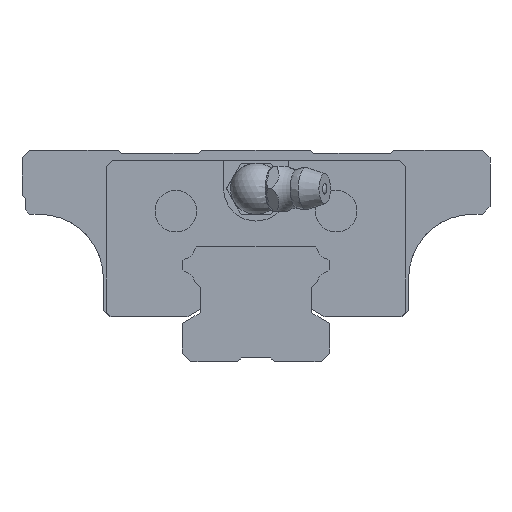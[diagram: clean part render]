
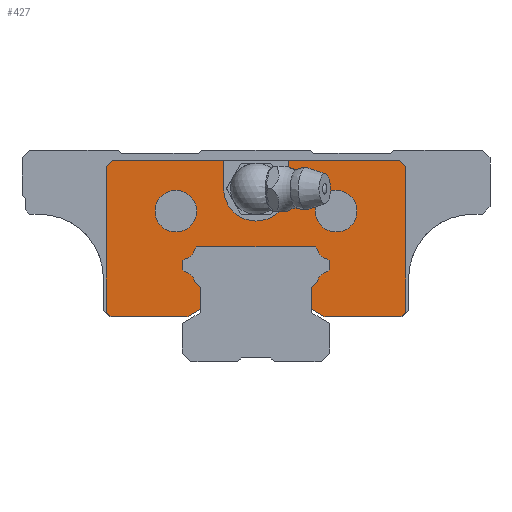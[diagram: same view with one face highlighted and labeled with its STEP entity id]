
A CAD part, front view. The second image highlights one B-rep face of the part: STEP entity #427.
In plain terms, the highlighted planar face has unit normal (0, -1, 0).
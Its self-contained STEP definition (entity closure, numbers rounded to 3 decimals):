
#178=FACE_BOUND('',#915,.T.);
#179=FACE_BOUND('',#916,.T.);
#266=CIRCLE('',#3467,2.2);
#268=CIRCLE('',#3473,2.2);
#270=CIRCLE('',#3479,2.2);
#272=CIRCLE('',#3485,2.2);
#279=CIRCLE('',#3526,3.25);
#280=CIRCLE('',#3527,3.25);
#281=CIRCLE('',#3528,5.05);
#427=ADVANCED_FACE('',(#178,#179,#738),#584,.F.);
#584=PLANE('',#3529);
#738=FACE_OUTER_BOUND('',#917,.T.);
#915=EDGE_LOOP('',(#1508));
#916=EDGE_LOOP('',(#1509));
#917=EDGE_LOOP('',(#1510,#1511,#1512,#1513,#1514,#1515,#1516,#1517,#1518,
#1519,#1520,#1521,#1522,#1523,#1524,#1525,#1526,#1527,#1528,#1529,#1530,
#1531,#1532,#1533,#1534,#1535,#1536,#1537,#1538,#1539,#1540,#1541));
#1508=ORIENTED_EDGE('',*,*,#2536,.F.);
#1509=ORIENTED_EDGE('',*,*,#2537,.F.);
#1510=ORIENTED_EDGE('',*,*,#2538,.F.);
#1511=ORIENTED_EDGE('',*,*,#2539,.T.);
#1512=ORIENTED_EDGE('',*,*,#2532,.F.);
#1513=ORIENTED_EDGE('',*,*,#2529,.T.);
#1514=ORIENTED_EDGE('',*,*,#2527,.F.);
#1515=ORIENTED_EDGE('',*,*,#2525,.T.);
#1516=ORIENTED_EDGE('',*,*,#2491,.F.);
#1517=ORIENTED_EDGE('',*,*,#2485,.T.);
#1518=ORIENTED_EDGE('',*,*,#2482,.F.);
#1519=ORIENTED_EDGE('',*,*,#2479,.F.);
#1520=ORIENTED_EDGE('',*,*,#2476,.T.);
#1521=ORIENTED_EDGE('',*,*,#2473,.F.);
#1522=ORIENTED_EDGE('',*,*,#2470,.F.);
#1523=ORIENTED_EDGE('',*,*,#2467,.T.);
#1524=ORIENTED_EDGE('',*,*,#2464,.T.);
#1525=ORIENTED_EDGE('',*,*,#2461,.T.);
#1526=ORIENTED_EDGE('',*,*,#2458,.T.);
#1527=ORIENTED_EDGE('',*,*,#2455,.F.);
#1528=ORIENTED_EDGE('',*,*,#2452,.T.);
#1529=ORIENTED_EDGE('',*,*,#2449,.F.);
#1530=ORIENTED_EDGE('',*,*,#2446,.T.);
#1531=ORIENTED_EDGE('',*,*,#2443,.T.);
#1532=ORIENTED_EDGE('',*,*,#2440,.T.);
#1533=ORIENTED_EDGE('',*,*,#2437,.T.);
#1534=ORIENTED_EDGE('',*,*,#2434,.T.);
#1535=ORIENTED_EDGE('',*,*,#2431,.F.);
#1536=ORIENTED_EDGE('',*,*,#2427,.T.);
#1537=ORIENTED_EDGE('',*,*,#2524,.F.);
#1538=ORIENTED_EDGE('',*,*,#2522,.T.);
#1539=ORIENTED_EDGE('',*,*,#2520,.F.);
#1540=ORIENTED_EDGE('',*,*,#2531,.F.);
#1541=ORIENTED_EDGE('',*,*,#2540,.F.);
#2072=VERTEX_POINT('',#5069);
#2073=VERTEX_POINT('',#5071);
#2076=VERTEX_POINT('',#5079);
#2078=VERTEX_POINT('',#5085);
#2080=VERTEX_POINT('',#5091);
#2082=VERTEX_POINT('',#5097);
#2084=VERTEX_POINT('',#5103);
#2086=VERTEX_POINT('',#5109);
#2088=VERTEX_POINT('',#5115);
#2090=VERTEX_POINT('',#5121);
#2092=VERTEX_POINT('',#5127);
#2094=VERTEX_POINT('',#5133);
#2096=VERTEX_POINT('',#5139);
#2098=VERTEX_POINT('',#5145);
#2100=VERTEX_POINT('',#5151);
#2102=VERTEX_POINT('',#5157);
#2104=VERTEX_POINT('',#5163);
#2106=VERTEX_POINT('',#5169);
#2108=VERTEX_POINT('',#5175);
#2110=VERTEX_POINT('',#5181);
#2112=VERTEX_POINT('',#5187);
#2115=VERTEX_POINT('',#5197);
#2124=VERTEX_POINT('',#5278);
#2125=VERTEX_POINT('',#5280);
#2126=VERTEX_POINT('',#5284);
#2127=VERTEX_POINT('',#5290);
#2128=VERTEX_POINT('',#5294);
#2129=VERTEX_POINT('',#5298);
#2130=VERTEX_POINT('',#5302);
#2131=VERTEX_POINT('',#5304);
#2134=VERTEX_POINT('',#5312);
#2135=VERTEX_POINT('',#5314);
#2136=VERTEX_POINT('',#5316);
#2137=VERTEX_POINT('',#5317);
#2427=EDGE_CURVE('',#2073,#2072,#2841,.T.);
#2431=EDGE_CURVE('',#2073,#2076,#2845,.T.);
#2434=EDGE_CURVE('',#2078,#2076,#2848,.T.);
#2437=EDGE_CURVE('',#2080,#2078,#2851,.T.);
#2440=EDGE_CURVE('',#2082,#2080,#266,.T.);
#2443=EDGE_CURVE('',#2084,#2082,#2855,.T.);
#2446=EDGE_CURVE('',#2086,#2084,#2858,.T.);
#2449=EDGE_CURVE('',#2086,#2088,#2861,.T.);
#2452=EDGE_CURVE('',#2090,#2088,#268,.T.);
#2455=EDGE_CURVE('',#2090,#2092,#2865,.T.);
#2458=EDGE_CURVE('',#2094,#2092,#2868,.T.);
#2461=EDGE_CURVE('',#2096,#2094,#2871,.T.);
#2464=EDGE_CURVE('',#2098,#2096,#270,.T.);
#2467=EDGE_CURVE('',#2100,#2098,#2875,.T.);
#2470=EDGE_CURVE('',#2100,#2102,#2878,.T.);
#2473=EDGE_CURVE('',#2102,#2104,#2881,.T.);
#2476=EDGE_CURVE('',#2106,#2104,#272,.T.);
#2479=EDGE_CURVE('',#2106,#2108,#2885,.T.);
#2482=EDGE_CURVE('',#2108,#2110,#2888,.T.);
#2485=EDGE_CURVE('',#2112,#2110,#2891,.T.);
#2491=EDGE_CURVE('',#2112,#2115,#2897,.T.);
#2520=EDGE_CURVE('',#2124,#2125,#2920,.T.);
#2522=EDGE_CURVE('',#2126,#2125,#2922,.T.);
#2524=EDGE_CURVE('',#2126,#2072,#2924,.T.);
#2525=EDGE_CURVE('',#2127,#2115,#2925,.T.);
#2527=EDGE_CURVE('',#2127,#2128,#2927,.T.);
#2529=EDGE_CURVE('',#2129,#2128,#2929,.T.);
#2531=EDGE_CURVE('',#2130,#2124,#2931,.T.);
#2532=EDGE_CURVE('',#2129,#2131,#2932,.T.);
#2536=EDGE_CURVE('',#2134,#2134,#279,.T.);
#2537=EDGE_CURVE('',#2135,#2135,#280,.T.);
#2538=EDGE_CURVE('',#2136,#2137,#281,.T.);
#2539=EDGE_CURVE('',#2136,#2131,#2936,.T.);
#2540=EDGE_CURVE('',#2137,#2130,#2937,.T.);
#2841=LINE('',#5070,#3173);
#2845=LINE('',#5078,#3177);
#2848=LINE('',#5084,#3180);
#2851=LINE('',#5090,#3183);
#2855=LINE('',#5102,#3187);
#2858=LINE('',#5108,#3190);
#2861=LINE('',#5114,#3193);
#2865=LINE('',#5126,#3197);
#2868=LINE('',#5132,#3200);
#2871=LINE('',#5138,#3203);
#2875=LINE('',#5150,#3207);
#2878=LINE('',#5156,#3210);
#2881=LINE('',#5162,#3213);
#2885=LINE('',#5174,#3217);
#2888=LINE('',#5180,#3220);
#2891=LINE('',#5186,#3223);
#2897=LINE('',#5196,#3229);
#2920=LINE('',#5279,#3252);
#2922=LINE('',#5283,#3254);
#2924=LINE('',#5287,#3256);
#2925=LINE('',#5289,#3257);
#2927=LINE('',#5293,#3259);
#2929=LINE('',#5297,#3261);
#2931=LINE('',#5301,#3263);
#2932=LINE('',#5303,#3264);
#2936=LINE('',#5318,#3268);
#2937=LINE('',#5319,#3269);
#3173=VECTOR('',#3941,1.);
#3177=VECTOR('',#3947,1.);
#3180=VECTOR('',#3952,1.);
#3183=VECTOR('',#3957,1.);
#3187=VECTOR('',#3969,1.);
#3190=VECTOR('',#3974,1.);
#3193=VECTOR('',#3979,1.);
#3197=VECTOR('',#3991,1.);
#3200=VECTOR('',#3996,1.);
#3203=VECTOR('',#4001,1.);
#3207=VECTOR('',#4013,1.);
#3210=VECTOR('',#4018,1.);
#3213=VECTOR('',#4023,1.);
#3217=VECTOR('',#4035,1.);
#3220=VECTOR('',#4040,1.);
#3223=VECTOR('',#4045,1.);
#3229=VECTOR('',#4053,1.);
#3252=VECTOR('',#4132,1.);
#3254=VECTOR('',#4136,1.);
#3256=VECTOR('',#4140,1.);
#3257=VECTOR('',#4143,1.);
#3259=VECTOR('',#4147,1.);
#3261=VECTOR('',#4151,1.);
#3263=VECTOR('',#4155,1.);
#3264=VECTOR('',#4156,1.);
#3268=VECTOR('',#4168,1.);
#3269=VECTOR('',#4169,1.);
#3467=AXIS2_PLACEMENT_3D('',#5096,#3962,#3963);
#3473=AXIS2_PLACEMENT_3D('',#5120,#3984,#3985);
#3479=AXIS2_PLACEMENT_3D('',#5144,#4006,#4007);
#3485=AXIS2_PLACEMENT_3D('',#5168,#4028,#4029);
#3526=AXIS2_PLACEMENT_3D('',#5311,#4162,#4163);
#3527=AXIS2_PLACEMENT_3D('',#5313,#4164,#4165);
#3528=AXIS2_PLACEMENT_3D('',#5315,#4166,#4167);
#3529=AXIS2_PLACEMENT_3D('',#5320,#4170,#4171);
#3941=DIRECTION('',(1.,0.,0.));
#3947=DIRECTION('',(-0.866,0.,0.5));
#3952=DIRECTION('',(0.,0.,-1.));
#3957=DIRECTION('',(-0.707,0.,-0.707));
#3962=DIRECTION('',(0.,-1.,0.));
#3963=DIRECTION('',(1.,0.,0.));
#3969=DIRECTION('',(-0.707,0.,-0.707));
#3974=DIRECTION('',(0.,0.,-1.));
#3979=DIRECTION('',(-0.707,0.,0.707));
#3984=DIRECTION('',(0.,-1.,0.));
#3985=DIRECTION('',(1.,0.,0.));
#3991=DIRECTION('',(-0.707,0.,0.707));
#3996=DIRECTION('',(1.,0.,0.));
#4001=DIRECTION('',(0.707,0.,0.707));
#4006=DIRECTION('',(0.,-1.,0.));
#4007=DIRECTION('',(1.,0.,0.));
#4013=DIRECTION('',(0.707,0.,0.707));
#4018=DIRECTION('',(0.,0.,-1.));
#4023=DIRECTION('',(0.707,0.,-0.707));
#4028=DIRECTION('',(0.,-1.,0.));
#4029=DIRECTION('',(1.,0.,0.));
#4035=DIRECTION('',(0.707,0.,-0.707));
#4040=DIRECTION('',(0.,0.,-1.));
#4045=DIRECTION('',(0.866,0.,0.5));
#4053=DIRECTION('',(-1.,0.,0.));
#4132=DIRECTION('',(0.707,0.,-0.707));
#4136=DIRECTION('',(0.,0.,1.));
#4140=DIRECTION('',(-0.707,0.,-0.707));
#4143=DIRECTION('',(0.707,0.,-0.707));
#4147=DIRECTION('',(0.,0.,1.));
#4151=DIRECTION('',(-0.707,0.,-0.707));
#4155=DIRECTION('',(1.,0.,0.));
#4156=DIRECTION('',(1.,0.,0.));
#4162=DIRECTION('',(0.,-1.,0.));
#4163=DIRECTION('',(0.,0.,-1.));
#4164=DIRECTION('',(0.,-1.,0.));
#4165=DIRECTION('',(0.,0.,-1.));
#4166=DIRECTION('',(0.,-1.,0.));
#4167=DIRECTION('',(1.,0.,0.));
#4168=DIRECTION('',(0.,0.,1.));
#4169=DIRECTION('',(0.,0.,1.));
#4170=DIRECTION('',(0.,1.,0.));
#4171=DIRECTION('',(0.,0.,-1.));
#5069=CARTESIAN_POINT('',(22.616,-30.1,6.4));
#5070=CARTESIAN_POINT('',(10.768,-30.1,6.4));
#5071=CARTESIAN_POINT('',(10.768,-30.1,6.4));
#5078=CARTESIAN_POINT('',(10.768,-30.1,6.4));
#5079=CARTESIAN_POINT('',(8.63,-30.1,7.634));
#5084=CARTESIAN_POINT('',(8.63,-30.1,10.921));
#5085=CARTESIAN_POINT('',(8.63,-30.1,10.921));
#5090=CARTESIAN_POINT('',(9.503,-30.1,11.794));
#5091=CARTESIAN_POINT('',(9.503,-30.1,11.794));
#5096=CARTESIAN_POINT('',(11.656,-30.1,11.344));
#5097=CARTESIAN_POINT('',(11.206,-30.1,13.497));
#5102=CARTESIAN_POINT('',(11.43,-30.1,13.721));
#5103=CARTESIAN_POINT('',(11.43,-30.1,13.721));
#5108=CARTESIAN_POINT('',(11.43,-30.1,15.179));
#5109=CARTESIAN_POINT('',(11.43,-30.1,15.179));
#5114=CARTESIAN_POINT('',(11.43,-30.1,15.179));
#5115=CARTESIAN_POINT('',(11.206,-30.1,15.403));
#5120=CARTESIAN_POINT('',(11.656,-30.1,17.556));
#5121=CARTESIAN_POINT('',(9.503,-30.1,17.106));
#5126=CARTESIAN_POINT('',(9.503,-30.1,17.106));
#5127=CARTESIAN_POINT('',(9.279,-30.1,17.33));
#5132=CARTESIAN_POINT('',(-9.279,-30.1,17.33));
#5133=CARTESIAN_POINT('',(-9.279,-30.1,17.33));
#5138=CARTESIAN_POINT('',(-9.503,-30.1,17.106));
#5139=CARTESIAN_POINT('',(-9.503,-30.1,17.106));
#5144=CARTESIAN_POINT('',(-11.656,-30.1,17.556));
#5145=CARTESIAN_POINT('',(-11.206,-30.1,15.403));
#5150=CARTESIAN_POINT('',(-11.43,-30.1,15.179));
#5151=CARTESIAN_POINT('',(-11.43,-30.1,15.179));
#5156=CARTESIAN_POINT('',(-11.43,-30.1,15.179));
#5157=CARTESIAN_POINT('',(-11.43,-30.1,13.721));
#5162=CARTESIAN_POINT('',(-11.43,-30.1,13.721));
#5163=CARTESIAN_POINT('',(-11.206,-30.1,13.497));
#5168=CARTESIAN_POINT('',(-11.656,-30.1,11.344));
#5169=CARTESIAN_POINT('',(-9.503,-30.1,11.794));
#5174=CARTESIAN_POINT('',(-9.503,-30.1,11.794));
#5175=CARTESIAN_POINT('',(-8.63,-30.1,10.921));
#5180=CARTESIAN_POINT('',(-8.63,-30.1,10.921));
#5181=CARTESIAN_POINT('',(-8.63,-30.1,7.634));
#5186=CARTESIAN_POINT('',(-10.768,-30.1,6.4));
#5187=CARTESIAN_POINT('',(-10.768,-30.1,6.4));
#5196=CARTESIAN_POINT('',(-10.768,-30.1,6.4));
#5197=CARTESIAN_POINT('',(-22.616,-30.1,6.4));
#5278=CARTESIAN_POINT('',(22.42,-30.1,30.77));
#5279=CARTESIAN_POINT('',(22.42,-30.1,30.77));
#5280=CARTESIAN_POINT('',(23.37,-30.1,29.82));
#5283=CARTESIAN_POINT('',(23.37,-30.1,7.154));
#5284=CARTESIAN_POINT('',(23.37,-30.1,7.154));
#5287=CARTESIAN_POINT('',(23.37,-30.1,7.154));
#5289=CARTESIAN_POINT('',(-23.37,-30.1,7.154));
#5290=CARTESIAN_POINT('',(-23.37,-30.1,7.154));
#5293=CARTESIAN_POINT('',(-23.37,-30.1,7.154));
#5294=CARTESIAN_POINT('',(-23.37,-30.1,29.82));
#5297=CARTESIAN_POINT('',(-22.42,-30.1,30.77));
#5298=CARTESIAN_POINT('',(-22.42,-30.1,30.77));
#5301=CARTESIAN_POINT('',(-22.42,-30.1,30.77));
#5302=CARTESIAN_POINT('',(5.05,-30.1,30.77));
#5303=CARTESIAN_POINT('',(-22.42,-30.1,30.77));
#5304=CARTESIAN_POINT('',(-5.05,-30.1,30.77));
#5311=CARTESIAN_POINT('',(12.5,-30.1,22.9));
#5312=CARTESIAN_POINT('',(12.5,-30.1,19.65));
#5313=CARTESIAN_POINT('',(-12.5,-30.1,22.9));
#5314=CARTESIAN_POINT('',(-12.5,-30.1,19.65));
#5315=CARTESIAN_POINT('',(0.,-30.1,26.4));
#5316=CARTESIAN_POINT('',(-5.05,-30.1,26.4));
#5317=CARTESIAN_POINT('',(5.05,-30.1,26.4));
#5318=CARTESIAN_POINT('',(-5.05,-30.1,26.4));
#5319=CARTESIAN_POINT('',(5.05,-30.1,26.4));
#5320=CARTESIAN_POINT('',(11.656,-30.1,11.344));
